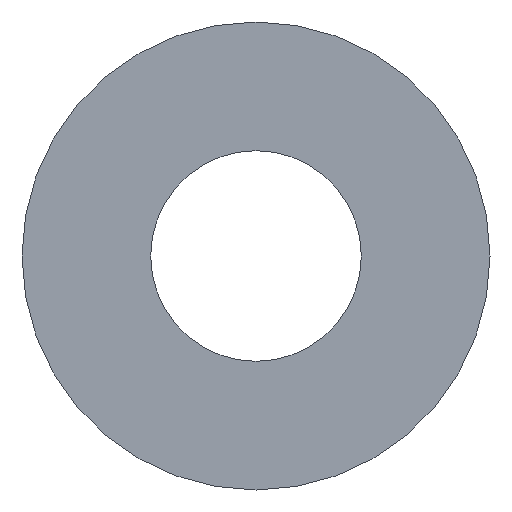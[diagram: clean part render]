
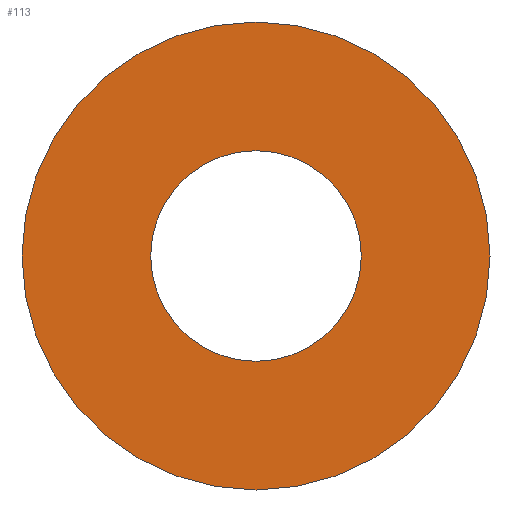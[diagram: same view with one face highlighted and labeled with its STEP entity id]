
A CAD part, front view. The second image highlights one B-rep face of the part: STEP entity #113.
In plain terms, the highlighted planar face has unit normal (0, -1, 0).
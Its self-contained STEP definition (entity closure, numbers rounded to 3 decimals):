
#22 = VERTEX_POINT('',#23);
#23 = CARTESIAN_POINT('',(39.,9.5,-10.));
#32 = CYLINDRICAL_SURFACE('',#33,3.);
#33 = AXIS2_PLACEMENT_3D('',#34,#35,#36);
#34 = CARTESIAN_POINT('',(42.,9.5,-10.));
#35 = DIRECTION('',(0.,-1.,0.));
#36 = DIRECTION('',(-1.,-0.,-0.));
#83 = EDGE_CURVE('',#22,#22,#84,.T.);
#84 = SURFACE_CURVE('',#85,(#90,#97),.PCURVE_S1.);
#85 = CIRCLE('',#86,3.);
#86 = AXIS2_PLACEMENT_3D('',#87,#88,#89);
#87 = CARTESIAN_POINT('',(42.,9.5,-10.));
#88 = DIRECTION('',(0.,-1.,0.));
#89 = DIRECTION('',(-1.,-0.,-0.));
#90 = PCURVE('',#32,#91);
#91 = DEFINITIONAL_REPRESENTATION('',(#92),#96);
#92 = LINE('',#93,#94);
#93 = CARTESIAN_POINT('',(0.,0.));
#94 = VECTOR('',#95,1.);
#95 = DIRECTION('',(1.,0.));
#96 = ( GEOMETRIC_REPRESENTATION_CONTEXT(2) 
PARAMETRIC_REPRESENTATION_CONTEXT() REPRESENTATION_CONTEXT('2D SPACE',''
  ) );
#97 = PCURVE('',#98,#103);
#98 = PLANE('',#99);
#99 = AXIS2_PLACEMENT_3D('',#100,#101,#102);
#100 = CARTESIAN_POINT('',(42.,9.5,-10.));
#101 = DIRECTION('',(-0.,1.,0.));
#102 = DIRECTION('',(1.,0.,0.));
#103 = DEFINITIONAL_REPRESENTATION('',(#104),#112);
#104 = ( BOUNDED_CURVE() B_SPLINE_CURVE(2,(#105,#106,#107,#108,#109,#110
,#111),.UNSPECIFIED.,.T.,.F.) B_SPLINE_CURVE_WITH_KNOTS((1,2,2,2,2,1),(
    -2.094,0.,2.094,4.189,6.283,
8.378),.UNSPECIFIED.) CURVE() GEOMETRIC_REPRESENTATION_ITEM() 
RATIONAL_B_SPLINE_CURVE((1.,0.5,1.,0.5,1.,0.5,1.)) REPRESENTATION_ITEM(
  '') );
#105 = CARTESIAN_POINT('',(-3.,0.));
#106 = CARTESIAN_POINT('',(-3.,5.196));
#107 = CARTESIAN_POINT('',(1.5,2.598));
#108 = CARTESIAN_POINT('',(6.,0.));
#109 = CARTESIAN_POINT('',(1.5,-2.598));
#110 = CARTESIAN_POINT('',(-3.,-5.196));
#111 = CARTESIAN_POINT('',(-3.,0.));
#112 = ( GEOMETRIC_REPRESENTATION_CONTEXT(2) 
PARAMETRIC_REPRESENTATION_CONTEXT() REPRESENTATION_CONTEXT('2D SPACE',''
  ) );
#113 = ADVANCED_FACE('',(#114,#117),#98,.F.);
#114 = FACE_BOUND('',#115,.T.);
#115 = EDGE_LOOP('',(#116));
#116 = ORIENTED_EDGE('',*,*,#83,.T.);
#117 = FACE_BOUND('',#118,.T.);
#118 = EDGE_LOOP('',(#119));
#119 = ORIENTED_EDGE('',*,*,#120,.T.);
#120 = EDGE_CURVE('',#121,#121,#123,.T.);
#121 = VERTEX_POINT('',#122);
#122 = CARTESIAN_POINT('',(40.65,9.5,-10.));
#123 = SURFACE_CURVE('',#124,(#129,#136),.PCURVE_S1.);
#124 = CIRCLE('',#125,1.35);
#125 = AXIS2_PLACEMENT_3D('',#126,#127,#128);
#126 = CARTESIAN_POINT('',(42.,9.5,-10.));
#127 = DIRECTION('',(-0.,1.,0.));
#128 = DIRECTION('',(-1.,-0.,-0.));
#129 = PCURVE('',#98,#130);
#130 = DEFINITIONAL_REPRESENTATION('',(#131),#135);
#131 = CIRCLE('',#132,1.35);
#132 = AXIS2_PLACEMENT_2D('',#133,#134);
#133 = CARTESIAN_POINT('',(0.,0.));
#134 = DIRECTION('',(-1.,0.));
#135 = ( GEOMETRIC_REPRESENTATION_CONTEXT(2) 
PARAMETRIC_REPRESENTATION_CONTEXT() REPRESENTATION_CONTEXT('2D SPACE',''
  ) );
#136 = PCURVE('',#137,#142);
#137 = CYLINDRICAL_SURFACE('',#138,1.35);
#138 = AXIS2_PLACEMENT_3D('',#139,#140,#141);
#139 = CARTESIAN_POINT('',(42.,9.,-10.));
#140 = DIRECTION('',(0.,-1.,0.));
#141 = DIRECTION('',(-1.,-0.,-0.));
#142 = DEFINITIONAL_REPRESENTATION('',(#143),#147);
#143 = LINE('',#144,#145);
#144 = CARTESIAN_POINT('',(6.283,-0.5));
#145 = VECTOR('',#146,1.);
#146 = DIRECTION('',(-1.,0.));
#147 = ( GEOMETRIC_REPRESENTATION_CONTEXT(2) 
PARAMETRIC_REPRESENTATION_CONTEXT() REPRESENTATION_CONTEXT('2D SPACE',''
  ) );
